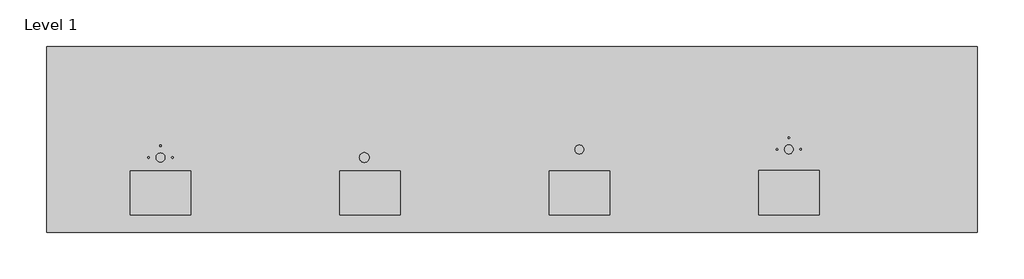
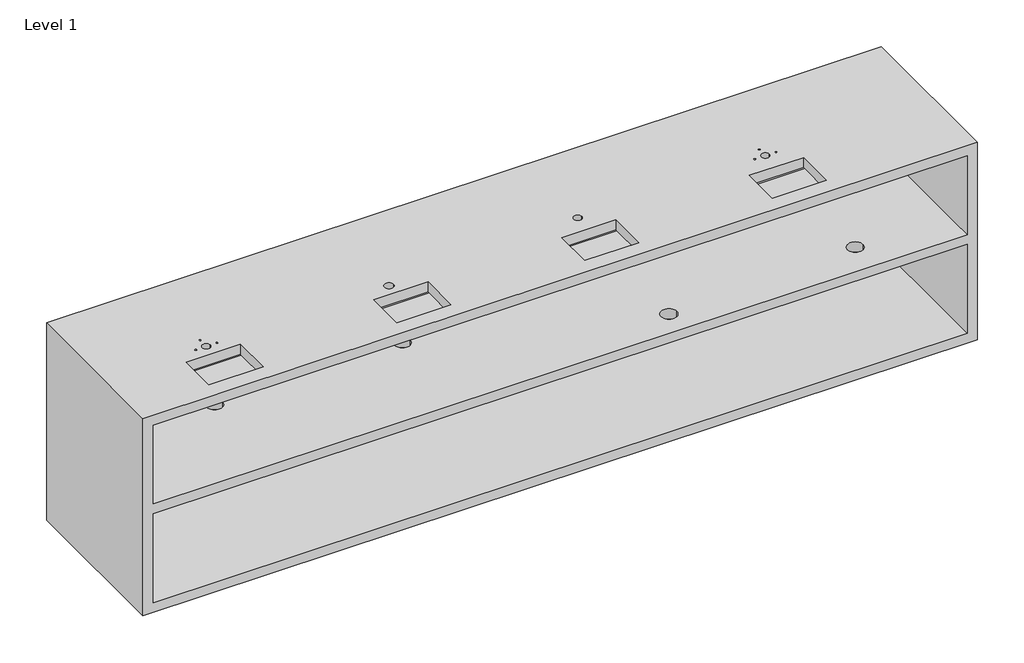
# One storey, incomplete: 1 furniture element.
"""IFC4 building model written with IfcOpenShell, lengths in millimetres."""

from ifc_helpers import new_model, si_unit, frame, origin, place, context, project, spatial, polyline, circle_curve, element, save
from ifc_brep_helpers import plane_surface, revolved_surface, advanced_brep

model = new_model("IFC4")

# Units and contexts
model_context = context("Model", 3, world=origin())
ifc_project = project(units=[si_unit("LENGTHUNIT", "METRE", prefix="MILLI")], contexts=[model_context])

# Site, building, storey
site = spatial("IfcSite", under=ifc_project)
building = spatial("IfcBuilding", under=site)
storey = spatial("IfcBuildingStorey", under=building, Name="Level 1", Elevation=0.0)

# Furniture
placement = place(None, origin())
element("IfcFurniture", 1, ObjectType="BAR COUNTER : BAR COUNTER", at=placement, inside=storey, context=model_context, shape_type="AdvancedBrep", body=[
    advanced_brep(
    [(-2126.4125165, 1866.8388532, 50.0), (1773.5874835, 1866.8388532, 50.0), (1773.5874835, 2616.8388532, 50.0), (-2126.4125165, 2616.8388532, 50.0), (-2176.4125165, 2666.8388532, 0.0), (1823.5874835, 2666.8388532, 0.0), (1823.5874835, 2616.8388532, 0.0), (1823.5874835, 1866.8388532, 0.0), (-2176.4125165, 1866.8388532, 0.0), (-2176.4125165, 2616.8388532, 0.0), (1823.5874835, 2666.8388532, 1000.0), (1823.5874835, 2616.8388532, 1000.0), (1823.5874835, 1866.8388532, 1000.0), (-2176.4125165, 2666.8388532, 1000.0), (-2176.4125165, 1866.8388532, 1000.0), (-2176.4125165, 2616.8388532, 1000.0), (-2126.4125165, 1866.8388532, 500.0), (1773.5874835, 1866.8388532, 500.0), (-2126.4125165, 1866.8388532, 550.0), (-2126.4125165, 1866.8388532, 950.0), (1773.5874835, 1866.8388532, 950.0), (1773.5874835, 1866.8388532, 550.0), (-1816.8618042, 2131.4288532, 1000.0), (-1556.8618042, 2131.4288532, 1000.0), (-1556.8618042, 1941.4288532, 1000.0), (-1816.8618042, 1941.4288532, 1000.0), (-1667.8118042, 2188.8288532, 1000.0), (-1705.9118042, 2188.8288532, 1000.0), (-1632.5618042, 2188.8288532, 1000.0), (-1639.5618042, 2188.8288532, 1000.0), (-1734.1618042, 2188.8288532, 1000.0), (-1741.1618042, 2188.8288532, 1000.0), (-1683.3618042, 2239.6288532, 1000.0), (-1690.3618042, 2239.6288532, 1000.0), (-916.8618042, 2131.8388532, 1000.0), (-656.8618042, 2131.8388532, 1000.0), (-656.8618042, 1941.8388532, 1000.0), (-916.8618042, 1941.8388532, 1000.0), (-789.9672962, 2188.8388532, 1000.0), (-831.9672962, 2188.8388532, 1000.0), (-16.6618042, 2131.4288532, 1000.0), (243.3381958, 2131.4288532, 1000.0), (243.3381958, 1941.4288532, 1000.0), (-16.6618042, 1941.4288532, 1000.0), (132.1881958, 2223.3888532, 1000.0), (94.0881958, 2223.3888532, 1000.0), (883.1381958, 2132.2488532, 1000.0), (1143.1381958, 2132.2488532, 1000.0), (1143.1381958, 1942.2488532, 1000.0), (883.1381958, 1942.2488532, 1000.0), (1032.1881958, 2223.7488532, 1000.0), (994.0881958, 2223.7488532, 1000.0), (1067.4381958, 2223.7488532, 1000.0), (1060.4381958, 2223.7488532, 1000.0), (965.8381958, 2223.7488532, 1000.0), (958.8381958, 2223.7488532, 1000.0), (1016.6381958, 2274.5488532, 1000.0), (1009.6381958, 2274.5488532, 1000.0), (-2126.4125165, 2616.8388532, 500.0), (-2126.4125165, 2616.8388532, 550.0), (-2126.4125165, 2616.8388532, 950.0), (1773.5874835, 2616.8388532, 550.0), (-1509.6618042, 2361.8420581, 550.0), (-1584.6618042, 2361.8420581, 550.0), (-609.6618042, 2361.8420581, 550.0), (-684.6618042, 2361.8420581, 550.0), (452.2506958, 1987.8865068, 550.0), (377.2506958, 1987.8865068, 550.0), (1363.7274659, 2020.0482583, 550.0), (1288.7274659, 2020.0482583, 550.0), (1773.5874835, 2616.8388532, 500.0), (-1584.6618042, 2361.8420581, 500.0), (-1509.6618042, 2361.8420581, 500.0), (-684.6618042, 2361.8420581, 500.0), (-609.6618042, 2361.8420581, 500.0), (377.2506958, 1987.8865068, 500.0), (452.2506958, 1987.8865068, 500.0), (1288.7274659, 2020.0482583, 500.0), (1363.7274659, 2020.0482583, 500.0), (1773.5874835, 2616.8388532, 950.0), (-1556.8618042, 2131.4288532, 950.0), (-1816.8618042, 2131.4288532, 950.0), (-1816.8618042, 1941.4288532, 950.0), (-1556.8618042, 1941.4288532, 950.0), (-1705.9118042, 2188.8288532, 950.0), (-1667.8118042, 2188.8288532, 950.0), (-1639.5618042, 2188.8288532, 950.0), (-1632.5618042, 2188.8288532, 950.0), (-1741.1618042, 2188.8288532, 950.0), (-1734.1618042, 2188.8288532, 950.0), (-1690.3618042, 2239.6288532, 950.0), (-1683.3618042, 2239.6288532, 950.0), (-656.8618042, 2131.8388532, 950.0), (-916.8618042, 2131.8388532, 950.0), (-916.8618042, 1941.8388532, 950.0), (-656.8618042, 1941.8388532, 950.0), (-831.9672962, 2188.8388532, 950.0), (-789.9672962, 2188.8388532, 950.0), (243.3381958, 2131.4288532, 950.0), (-16.6618042, 2131.4288532, 950.0), (-16.6618042, 1941.4288532, 950.0), (243.3381958, 1941.4288532, 950.0), (94.0881958, 2223.3888532, 950.0), (132.1881958, 2223.3888532, 950.0), (1143.1381958, 2132.2488532, 950.0), (883.1381958, 2132.2488532, 950.0), (883.1381958, 1942.2488532, 950.0), (1143.1381958, 1942.2488532, 950.0), (994.0881958, 2223.7488532, 950.0), (1032.1881958, 2223.7488532, 950.0), (1060.4381958, 2223.7488532, 950.0), (1067.4381958, 2223.7488532, 950.0), (958.8381958, 2223.7488532, 950.0), (965.8381958, 2223.7488532, 950.0), (1009.6381958, 2274.5488532, 950.0), (1016.6381958, 2274.5488532, 950.0)],
    [
        (0, 1),
        (1, 2),
        (2, 3),
        (3, 0),
        (4, 5),
        (5, 6),
        (6, 7),
        (7, 8),
        (8, 9),
        (9, 4),
        (5, 10),
        (10, 11),
        (11, 12),
        (12, 7),
        (4, 13),
        (13, 10),
        (8, 14),
        (14, 15),
        (15, 13),
        (12, 14),
        (0, 16),
        (16, 17),
        (17, 1),
        (18, 19),
        (19, 20),
        (20, 21),
        (21, 18),
        (22, 23),
        (23, 24),
        (24, 25),
        (25, 22),
        (26, 27, circle_curve(frame((-1686.8618042, 2188.8288532, 1000.0), z_axis=(0.0, 0.0, -1.0), x_axis=(1.0, 0.0, 0.0)), 19.05)),
        (27, 26, circle_curve(frame((-1686.8618042, 2188.8288532, 1000.0), z_axis=(0.0, 0.0, -1.0), x_axis=(1.0, 0.0, 0.0)), 19.05)),
        (28, 29, circle_curve(frame((-1636.0618042, 2188.8288532, 1000.0), z_axis=(0.0, 0.0, -1.0), x_axis=(1.0, 0.0, 0.0)), 3.5)),
        (29, 28, circle_curve(frame((-1636.0618042, 2188.8288532, 1000.0), z_axis=(0.0, 0.0, -1.0), x_axis=(1.0, 0.0, 0.0)), 3.5)),
        (30, 31, circle_curve(frame((-1737.6618042, 2188.8288532, 1000.0), z_axis=(0.0, 0.0, -1.0), x_axis=(1.0, 0.0, 0.0)), 3.5)),
        (31, 30, circle_curve(frame((-1737.6618042, 2188.8288532, 1000.0), z_axis=(0.0, 0.0, -1.0), x_axis=(1.0, 0.0, 0.0)), 3.5)),
        (32, 33, circle_curve(frame((-1686.8618042, 2239.6288532, 1000.0), z_axis=(0.0, 0.0, -1.0), x_axis=(1.0, 0.0, 0.0)), 3.5)),
        (33, 32, circle_curve(frame((-1686.8618042, 2239.6288532, 1000.0), z_axis=(0.0, 0.0, -1.0), x_axis=(1.0, 0.0, 0.0)), 3.5)),
        (34, 35),
        (35, 36),
        (36, 37),
        (37, 34),
        (38, 39, circle_curve(frame((-810.9672962, 2188.8388532, 1000.0), z_axis=(0.0, 0.0, -1.0), x_axis=(1.0, 0.0, 0.0)), 21.0)),
        (39, 38, circle_curve(frame((-810.9672962, 2188.8388532, 1000.0), z_axis=(0.0, 0.0, -1.0), x_axis=(1.0, 0.0, 0.0)), 21.0)),
        (40, 41),
        (41, 42),
        (42, 43),
        (43, 40),
        (44, 45, circle_curve(frame((113.1381958, 2223.3888532, 1000.0), z_axis=(0.0, 0.0, -1.0), x_axis=(1.0, 0.0, 0.0)), 19.05)),
        (45, 44, circle_curve(frame((113.1381958, 2223.3888532, 1000.0), z_axis=(0.0, 0.0, -1.0), x_axis=(1.0, 0.0, 0.0)), 19.05)),
        (46, 47),
        (47, 48),
        (48, 49),
        (49, 46),
        (50, 51, circle_curve(frame((1013.1381958, 2223.7488532, 1000.0), z_axis=(0.0, 0.0, -1.0), x_axis=(1.0, 0.0, 0.0)), 19.05)),
        (51, 50, circle_curve(frame((1013.1381958, 2223.7488532, 1000.0), z_axis=(0.0, 0.0, -1.0), x_axis=(1.0, 0.0, 0.0)), 19.05)),
        (52, 53, circle_curve(frame((1063.9381958, 2223.7488532, 1000.0), z_axis=(0.0, 0.0, -1.0), x_axis=(1.0, 0.0, 0.0)), 3.5)),
        (53, 52, circle_curve(frame((1063.9381958, 2223.7488532, 1000.0), z_axis=(0.0, 0.0, -1.0), x_axis=(1.0, 0.0, 0.0)), 3.5)),
        (54, 55, circle_curve(frame((962.3381958, 2223.7488532, 1000.0), z_axis=(0.0, 0.0, -1.0), x_axis=(1.0, 0.0, 0.0)), 3.5)),
        (55, 54, circle_curve(frame((962.3381958, 2223.7488532, 1000.0), z_axis=(0.0, 0.0, -1.0), x_axis=(1.0, 0.0, 0.0)), 3.5)),
        (56, 57, circle_curve(frame((1013.1381958, 2274.5488532, 1000.0), z_axis=(0.0, 0.0, -1.0), x_axis=(1.0, 0.0, 0.0)), 3.5)),
        (57, 56, circle_curve(frame((1013.1381958, 2274.5488532, 1000.0), z_axis=(0.0, 0.0, -1.0), x_axis=(1.0, 0.0, 0.0)), 3.5)),
        (3, 58),
        (58, 16),
        (18, 59),
        (59, 60),
        (60, 19),
        (21, 61),
        (61, 59),
        (62, 63, circle_curve(frame((-1547.1618042, 2361.8420581, 550.0), z_axis=(0.0, 0.0, -1.0), x_axis=(1.0, 0.0, 0.0)), 37.5)),
        (63, 62, circle_curve(frame((-1547.1618042, 2361.8420581, 550.0), z_axis=(0.0, 0.0, -1.0), x_axis=(1.0, 0.0, 0.0)), 37.5)),
        (64, 65, circle_curve(frame((-647.1618042, 2361.8420581, 550.0), z_axis=(0.0, 0.0, -1.0), x_axis=(1.0, 0.0, 0.0)), 37.5)),
        (65, 64, circle_curve(frame((-647.1618042, 2361.8420581, 550.0), z_axis=(0.0, 0.0, -1.0), x_axis=(1.0, 0.0, 0.0)), 37.5)),
        (66, 67, circle_curve(frame((414.7506958, 1987.8865068, 550.0), z_axis=(0.0, 0.0, -1.0), x_axis=(1.0, 0.0, 0.0)), 37.5)),
        (67, 66, circle_curve(frame((414.7506958, 1987.8865068, 550.0), z_axis=(0.0, 0.0, -1.0), x_axis=(1.0, 0.0, 0.0)), 37.5)),
        (68, 69, circle_curve(frame((1326.2274659, 2020.0482583, 550.0), z_axis=(0.0, 0.0, -1.0), x_axis=(1.0, 0.0, 0.0)), 37.5)),
        (69, 68, circle_curve(frame((1326.2274659, 2020.0482583, 550.0), z_axis=(0.0, 0.0, -1.0), x_axis=(1.0, 0.0, 0.0)), 37.5)),
        (58, 70),
        (70, 17),
        (71, 72, circle_curve(frame((-1547.1618042, 2361.8420581, 500.0), z_axis=(0.0, 0.0, 1.0), x_axis=(1.0, 0.0, 0.0)), 37.5)),
        (72, 71, circle_curve(frame((-1547.1618042, 2361.8420581, 500.0), z_axis=(0.0, 0.0, 1.0), x_axis=(1.0, 0.0, 0.0)), 37.5)),
        (73, 74, circle_curve(frame((-647.1618042, 2361.8420581, 500.0), z_axis=(0.0, 0.0, 1.0), x_axis=(1.0, 0.0, 0.0)), 37.5)),
        (74, 73, circle_curve(frame((-647.1618042, 2361.8420581, 500.0), z_axis=(0.0, 0.0, 1.0), x_axis=(1.0, 0.0, 0.0)), 37.5)),
        (75, 76, circle_curve(frame((414.7506958, 1987.8865068, 500.0), z_axis=(0.0, 0.0, 1.0), x_axis=(1.0, 0.0, 0.0)), 37.5)),
        (76, 75, circle_curve(frame((414.7506958, 1987.8865068, 500.0), z_axis=(0.0, 0.0, 1.0), x_axis=(1.0, 0.0, 0.0)), 37.5)),
        (77, 78, circle_curve(frame((1326.2274659, 2020.0482583, 500.0), z_axis=(0.0, 0.0, 1.0), x_axis=(1.0, 0.0, 0.0)), 37.5)),
        (78, 77, circle_curve(frame((1326.2274659, 2020.0482583, 500.0), z_axis=(0.0, 0.0, 1.0), x_axis=(1.0, 0.0, 0.0)), 37.5)),
        (60, 79),
        (79, 20),
        (80, 81),
        (81, 82),
        (82, 83),
        (83, 80),
        (84, 85, circle_curve(frame((-1686.8618042, 2188.8288532, 950.0), z_axis=(0.0, 0.0, 1.0), x_axis=(1.0, 0.0, 0.0)), 19.05)),
        (85, 84, circle_curve(frame((-1686.8618042, 2188.8288532, 950.0), z_axis=(0.0, 0.0, 1.0), x_axis=(1.0, 0.0, 0.0)), 19.05)),
        (86, 87, circle_curve(frame((-1636.0618042, 2188.8288532, 950.0), z_axis=(0.0, 0.0, 1.0), x_axis=(1.0, 0.0, 0.0)), 3.5)),
        (87, 86, circle_curve(frame((-1636.0618042, 2188.8288532, 950.0), z_axis=(0.0, 0.0, 1.0), x_axis=(1.0, 0.0, 0.0)), 3.5)),
        (88, 89, circle_curve(frame((-1737.6618042, 2188.8288532, 950.0), z_axis=(0.0, 0.0, 1.0), x_axis=(1.0, 0.0, 0.0)), 3.5)),
        (89, 88, circle_curve(frame((-1737.6618042, 2188.8288532, 950.0), z_axis=(0.0, 0.0, 1.0), x_axis=(1.0, 0.0, 0.0)), 3.5)),
        (90, 91, circle_curve(frame((-1686.8618042, 2239.6288532, 950.0), z_axis=(0.0, 0.0, 1.0), x_axis=(1.0, 0.0, 0.0)), 3.5)),
        (91, 90, circle_curve(frame((-1686.8618042, 2239.6288532, 950.0), z_axis=(0.0, 0.0, 1.0), x_axis=(1.0, 0.0, 0.0)), 3.5)),
        (92, 93),
        (93, 94),
        (94, 95),
        (95, 92),
        (96, 97, circle_curve(frame((-810.9672962, 2188.8388532, 950.0), z_axis=(0.0, 0.0, 1.0), x_axis=(1.0, 0.0, 0.0)), 21.0)),
        (97, 96, circle_curve(frame((-810.9672962, 2188.8388532, 950.0), z_axis=(0.0, 0.0, 1.0), x_axis=(1.0, 0.0, 0.0)), 21.0)),
        (98, 99),
        (99, 100),
        (100, 101),
        (101, 98),
        (102, 103, circle_curve(frame((113.1381958, 2223.3888532, 950.0), z_axis=(0.0, 0.0, 1.0), x_axis=(1.0, 0.0, 0.0)), 19.05)),
        (103, 102, circle_curve(frame((113.1381958, 2223.3888532, 950.0), z_axis=(0.0, 0.0, 1.0), x_axis=(1.0, 0.0, 0.0)), 19.05)),
        (104, 105),
        (105, 106),
        (106, 107),
        (107, 104),
        (108, 109, circle_curve(frame((1013.1381958, 2223.7488532, 950.0), z_axis=(0.0, 0.0, 1.0), x_axis=(1.0, 0.0, 0.0)), 19.05)),
        (109, 108, circle_curve(frame((1013.1381958, 2223.7488532, 950.0), z_axis=(0.0, 0.0, 1.0), x_axis=(1.0, 0.0, 0.0)), 19.05)),
        (110, 111, circle_curve(frame((1063.9381958, 2223.7488532, 950.0), z_axis=(0.0, 0.0, 1.0), x_axis=(1.0, 0.0, 0.0)), 3.5)),
        (111, 110, circle_curve(frame((1063.9381958, 2223.7488532, 950.0), z_axis=(0.0, 0.0, 1.0), x_axis=(1.0, 0.0, 0.0)), 3.5)),
        (112, 113, circle_curve(frame((962.3381958, 2223.7488532, 950.0), z_axis=(0.0, 0.0, 1.0), x_axis=(1.0, 0.0, 0.0)), 3.5)),
        (113, 112, circle_curve(frame((962.3381958, 2223.7488532, 950.0), z_axis=(0.0, 0.0, 1.0), x_axis=(1.0, 0.0, 0.0)), 3.5)),
        (114, 115, circle_curve(frame((1013.1381958, 2274.5488532, 950.0), z_axis=(0.0, 0.0, 1.0), x_axis=(1.0, 0.0, 0.0)), 3.5)),
        (115, 114, circle_curve(frame((1013.1381958, 2274.5488532, 950.0), z_axis=(0.0, 0.0, 1.0), x_axis=(1.0, 0.0, 0.0)), 3.5)),
        (70, 2),
        (79, 61),
        (80, 23),
        (22, 81),
        (25, 82),
        (24, 83),
        (84, 27),
        (26, 85),
        (86, 29),
        (28, 87),
        (88, 31),
        (30, 89),
        (90, 33),
        (32, 91),
        (71, 63),
        (62, 72),
        (92, 35),
        (34, 93),
        (37, 94),
        (36, 95),
        (96, 39),
        (38, 97),
        (73, 65),
        (64, 74),
        (98, 41),
        (40, 99),
        (43, 100),
        (42, 101),
        (102, 45),
        (44, 103),
        (75, 67),
        (66, 76),
        (104, 47),
        (46, 105),
        (49, 106),
        (48, 107),
        (108, 51),
        (50, 109),
        (110, 53),
        (52, 111),
        (112, 55),
        (54, 113),
        (114, 57),
        (56, 115),
        (77, 69),
        (68, 78),
    ],
    [
        plane_surface(frame((1823.5874835, 1866.8388532, 50.0), z_axis=(0.0, 0.0, 1.0), x_axis=(0.0, 1.0, 0.0))),
        plane_surface(frame((1823.5874835, 1866.8388532, 0.0), z_axis=(0.0, 0.0, -1.0), x_axis=(0.0, -1.0, 0.0))),
        plane_surface(frame((1823.5874835, 1866.8388532, 50.0), z_axis=(1.0, 0.0, 0.0), x_axis=(0.0, 0.0, -1.0))),
        plane_surface(frame((1823.5874835, 2666.8388532, 50.0), z_axis=(0.0, 1.0, 0.0), x_axis=(0.0, 0.0, -1.0))),
        plane_surface(frame((-2176.4125165, 2666.8388532, 50.0), z_axis=(-1.0, 0.0, 0.0), x_axis=(0.0, 0.0, -1.0))),
        plane_surface(frame((-2176.4125165, 1866.8388532, 50.0), z_axis=(0.0, -1.0, 0.0), x_axis=(0.0, 0.0, -1.0))),
        plane_surface(frame((-2126.4125165, 1866.8388532, 1000.0), z_axis=(0.0, 0.0, 1.0), x_axis=(0.0, 1.0, 0.0))),
        plane_surface(frame((-2126.4125165, 1866.8388532, 1000.0), z_axis=(1.0, 0.0, 0.0), x_axis=(0.0, 0.0, -1.0))),
        plane_surface(frame((1823.5874835, 1866.8388532, 550.0), z_axis=(0.0, 0.0, 1.0), x_axis=(0.0, 1.0, 0.0))),
        plane_surface(frame((1823.5874835, 1866.8388532, 500.0), z_axis=(0.0, 0.0, -1.0), x_axis=(0.0, -1.0, 0.0))),
        plane_surface(frame((1823.5874835, 1866.8388532, 950.0), z_axis=(0.0, 0.0, -1.0), x_axis=(0.0, -1.0, 0.0))),
        plane_surface(frame((1773.5874835, 2666.8388532, 1000.0), z_axis=(-1.0, 0.0, 0.0), x_axis=(0.0, 0.0, -1.0))),
        plane_surface(frame((-2176.4125165, 2616.8388532, 1000.0), z_axis=(0.0, -1.0, 0.0), x_axis=(0.0, 0.0, -1.0))),
        plane_surface(frame((-1556.8618042, 2131.4288532, 1137.5), z_axis=(0.0, -1.0, 0.0), x_axis=(0.0, 0.0, -1.0))),
        plane_surface(frame((-1816.8618042, 2131.4288532, 1137.5), z_axis=(1.0, 0.0, 0.0), x_axis=(0.0, 0.0, -1.0))),
        plane_surface(frame((-1816.8618042, 1941.4288532, 1137.5), z_axis=(0.0, 1.0, 0.0), x_axis=(0.0, 0.0, -1.0))),
        plane_surface(frame((-1556.8618042, 1941.4288532, 1137.5), z_axis=(-1.0, 0.0, 0.0), x_axis=(0.0, 0.0, -1.0))),
        revolved_surface(polyline([(-1667.8118042, 2188.8288532, 1000.0), (-1667.8118042, 2188.8288532, 950.0)]), (-1686.8618042, 2188.8288532, 687.5), (0.0, 0.0, 1.0)),
        revolved_surface(polyline([(-1632.5618042, 2188.8288532, 1000.0), (-1632.5618042, 2188.8288532, 950.0)]), (-1636.0618042, 2188.8288532, 1000.0), (0.0, 0.0, 1.0)),
        revolved_surface(polyline([(-1734.1618042, 2188.8288532, 1000.0), (-1734.1618042, 2188.8288532, 950.0)]), (-1737.6618042, 2188.8288532, 1000.0), (0.0, 0.0, 1.0)),
        revolved_surface(polyline([(-1683.3618042, 2239.6288532, 1000.0), (-1683.3618042, 2239.6288532, 950.0)]), (-1686.8618042, 2239.6288532, 1000.0), (0.0, 0.0, 1.0)),
        revolved_surface(polyline([(-1509.6618042, 2361.8420581, 550.0), (-1509.6618042, 2361.8420581, 500.0)]), (-1547.1618042, 2361.8420581, 400.0), (0.0, 0.0, 1.0)),
        plane_surface(frame((-656.8618042, 2131.8388532, 1137.5), z_axis=(0.0, -1.0, 0.0), x_axis=(0.0, 0.0, -1.0))),
        plane_surface(frame((-916.8618042, 2131.8388532, 1137.5), z_axis=(1.0, 0.0, 0.0), x_axis=(0.0, 0.0, -1.0))),
        plane_surface(frame((-916.8618042, 1941.8388532, 1137.5), z_axis=(0.0, 1.0, 0.0), x_axis=(0.0, 0.0, -1.0))),
        plane_surface(frame((-656.8618042, 1941.8388532, 1137.5), z_axis=(-1.0, 0.0, 0.0), x_axis=(0.0, 0.0, -1.0))),
        revolved_surface(polyline([(-789.9672962, 2188.8388532, 1000.0), (-789.9672962, 2188.8388532, 950.0)]), (-810.9672962, 2188.8388532, 687.5), (0.0, 0.0, 1.0)),
        revolved_surface(polyline([(-609.6618042, 2361.8420581, 550.0), (-609.6618042, 2361.8420581, 500.0)]), (-647.1618042, 2361.8420581, 400.0), (0.0, 0.0, 1.0)),
        plane_surface(frame((243.3381958, 2131.4288532, 1216.0), z_axis=(0.0, -1.0, 0.0), x_axis=(0.0, 0.0, -1.0))),
        plane_surface(frame((-16.6618042, 2131.4288532, 1216.0), z_axis=(1.0, 0.0, 0.0), x_axis=(0.0, 0.0, -1.0))),
        plane_surface(frame((-16.6618042, 1941.4288532, 1216.0), z_axis=(0.0, 1.0, 0.0), x_axis=(0.0, 0.0, -1.0))),
        plane_surface(frame((243.3381958, 1941.4288532, 1216.0), z_axis=(-1.0, 0.0, 0.0), x_axis=(0.0, 0.0, -1.0))),
        revolved_surface(polyline([(132.18819580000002, 2223.3888532, 1000.0), (132.18819580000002, 2223.3888532, 950.0)]), (113.1381958, 2223.3888532, 766.0), (0.0, 0.0, 1.0)),
        revolved_surface(polyline([(452.2506958, 1987.8865068, 550.0), (452.2506958, 1987.8865068, 500.0)]), (414.7506958, 1987.8865068, 400.0), (0.0, 0.0, 1.0)),
        plane_surface(frame((1143.1381958, 2132.2488532, 1137.5), z_axis=(0.0, -1.0, 0.0), x_axis=(0.0, 0.0, -1.0))),
        plane_surface(frame((883.1381958, 2132.2488532, 1137.5), z_axis=(1.0, 0.0, 0.0), x_axis=(0.0, 0.0, -1.0))),
        plane_surface(frame((883.1381958, 1942.2488532, 1137.5), z_axis=(0.0, 1.0, 0.0), x_axis=(0.0, 0.0, -1.0))),
        plane_surface(frame((1143.1381958, 1942.2488532, 1137.5), z_axis=(-1.0, 0.0, 0.0), x_axis=(0.0, 0.0, -1.0))),
        revolved_surface(polyline([(1032.1881958, 2223.7488532, 1000.0), (1032.1881958, 2223.7488532, 950.0)]), (1013.1381958, 2223.7488532, 687.5), (0.0, 0.0, 1.0)),
        revolved_surface(polyline([(1067.4381958, 2223.7488532, 1000.0), (1067.4381958, 2223.7488532, 950.0)]), (1063.9381958, 2223.7488532, 1000.0), (0.0, 0.0, 1.0)),
        revolved_surface(polyline([(965.8381958, 2223.7488532, 1000.0), (965.8381958, 2223.7488532, 950.0)]), (962.3381958, 2223.7488532, 1000.0), (0.0, 0.0, 1.0)),
        revolved_surface(polyline([(1016.6381958, 2274.5488532, 1000.0), (1016.6381958, 2274.5488532, 950.0)]), (1013.1381958, 2274.5488532, 1000.0), (0.0, 0.0, 1.0)),
        revolved_surface(polyline([(1363.7274659, 2020.0482583, 550.0), (1363.7274659, 2020.0482583, 500.0)]), (1326.2274659, 2020.0482583, 400.0), (0.0, 0.0, 1.0)),
    ],
    [
        (0, [[1, 2, 3, 4]]),
        (1, [[5, 6, 7, 8, 9, 10]]),
        (2, [[-6, 11, 12, 13, 14, -7]]),
        (3, [[-5, 15, 16, -11]]),
        (4, [[-9, 17, 18, 19, -15, -10]]),
        (5, [[-8, -14, 20, -17], [-1, 21, 22, 23], [24, 25, 26, 27]]),
        (6, [[-12, -16, -19, -18, -20, -13], [28, 29, 30, 31], [32, 33], [34, 35], [36, 37], [38, 39], [40, 41, 42, 43], [44, 45], [46, 47, 48, 49], [50, 51], [52, 53, 54, 55], [56, 57], [58, 59], [60, 61], [62, 63]]),
        (7, [[-4, 64, 65, -21]]),
        (7, [[-24, 66, 67, 68]]),
        (8, [[-27, 69, 70, -66], [71, 72], [73, 74], [75, 76], [77, 78]]),
        (9, [[-22, -65, 79, 80], [81, 82], [83, 84], [85, 86], [87, 88]]),
        (10, [[-25, -68, 89, 90], [91, 92, 93, 94], [95, 96], [97, 98], [99, 100], [101, 102], [103, 104, 105, 106], [107, 108], [109, 110, 111, 112], [113, 114], [115, 116, 117, 118], [119, 120], [121, 122], [123, 124], [125, 126]]),
        (11, [[-2, -23, -80, 127]]),
        (11, [[-26, -90, 128, -69]]),
        (12, [[-3, -127, -79, -64]]),
        (12, [[-67, -70, -128, -89]]),
        (13, [[129, -28, 130, -91]]),
        (14, [[-130, -31, 131, -92]]),
        (15, [[-131, -30, 132, -93]]),
        (16, [[-129, -94, -132, -29]]),
        (17, [[133, -32, 134, -95]]),
        (17, [[-133, -96, -134, -33]]),
        (18, [[135, -34, 136, -97]]),
        (18, [[-135, -98, -136, -35]]),
        (19, [[137, -36, 138, -99]]),
        (19, [[-137, -100, -138, -37]]),
        (20, [[139, -38, 140, -101]]),
        (20, [[-139, -102, -140, -39]]),
        (21, [[141, -71, 142, -81]]),
        (21, [[-141, -82, -142, -72]]),
        (22, [[143, -40, 144, -103]]),
        (23, [[-144, -43, 145, -104]]),
        (24, [[-145, -42, 146, -105]]),
        (25, [[-143, -106, -146, -41]]),
        (26, [[147, -44, 148, -107]]),
        (26, [[-147, -108, -148, -45]]),
        (27, [[149, -73, 150, -83]]),
        (27, [[-149, -84, -150, -74]]),
        (28, [[151, -46, 152, -109]]),
        (29, [[-152, -49, 153, -110]]),
        (30, [[-153, -48, 154, -111]]),
        (31, [[-151, -112, -154, -47]]),
        (32, [[155, -50, 156, -113]]),
        (32, [[-155, -114, -156, -51]]),
        (33, [[157, -75, 158, -85]]),
        (33, [[-157, -86, -158, -76]]),
        (34, [[159, -52, 160, -115]]),
        (35, [[-160, -55, 161, -116]]),
        (36, [[-161, -54, 162, -117]]),
        (37, [[-159, -118, -162, -53]]),
        (38, [[163, -56, 164, -119]]),
        (38, [[-163, -120, -164, -57]]),
        (39, [[165, -58, 166, -121]]),
        (39, [[-165, -122, -166, -59]]),
        (40, [[167, -60, 168, -123]]),
        (40, [[-167, -124, -168, -61]]),
        (41, [[169, -62, 170, -125]]),
        (41, [[-169, -126, -170, -63]]),
        (42, [[171, -77, 172, -87]]),
        (42, [[-171, -88, -172, -78]]),
    ],
),
])

save(model, "model.ifc")
